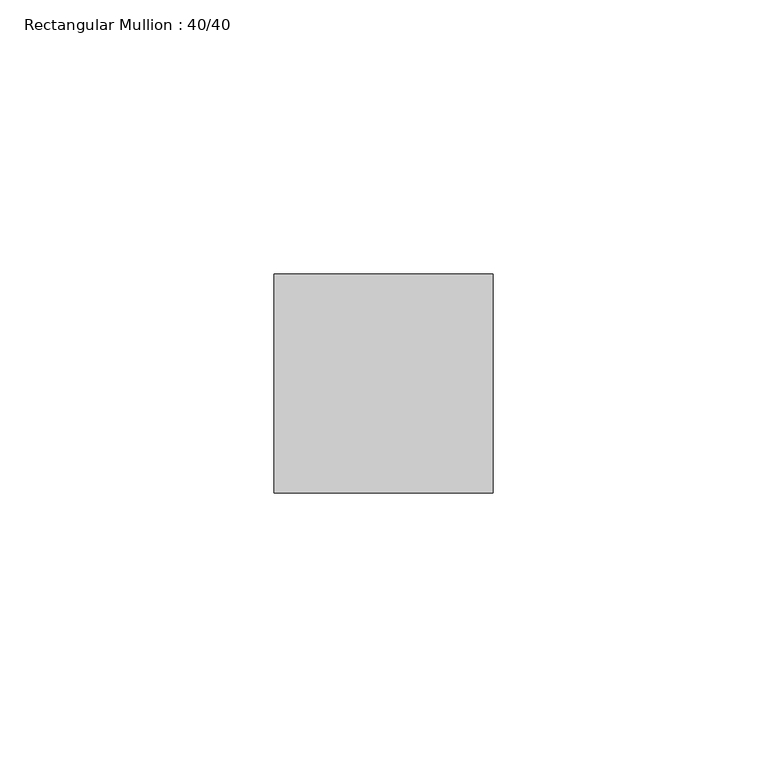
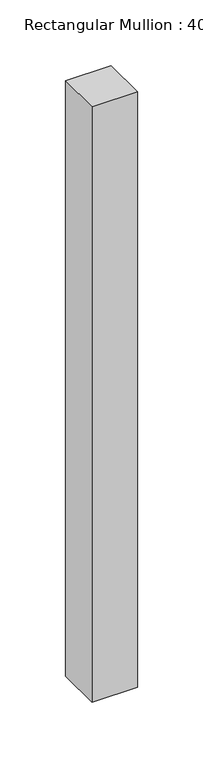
"""IFC4 building model written with IfcOpenShell, lengths in millimetres: member geometry, Rectangular Mullion : 40/40."""

from ifc_helpers import new_model, si_unit, frame, origin, place, context, project, spatial, polyline, outline, extrude, source, transform, mapped, element, save


def rectangular_mullion_40_40_b48b72c3(model_context):
    return source(origin(), model_context, "Body", "SweptSolid", [
        extrude(outline(polyline([(0.0, 20.0), (0.0, -20.0), (-40.0, -20.0), (-40.0, 20.0), (0.0, 20.0)])), frame((0.0, 0.0, -552.613098), z_axis=(0.0, 0.0, 1.0), x_axis=(1.0, 0.0, 0.0)), (0.0, 0.0, 1.0), 552.613098),
    ])


if __name__ == "__main__":
    model = new_model("IFC4")
    model_context = context("Model", 3, world=origin())
    ifc_project = project(units=[si_unit("LENGTHUNIT", "METRE", prefix="MILLI")], contexts=[model_context])
    site = spatial("IfcSite", under=ifc_project)
    building = spatial("IfcBuilding", under=site)
    placement = place(None, origin())
    rectangular_mullion_40_40_shape = rectangular_mullion_40_40_b48b72c3(model_context)
    element("IfcMember", 1, ObjectType="Rectangular Mullion : 40/40", at=placement, inside=building, context=model_context, shape_type="MappedRepresentation", body=[
        mapped(rectangular_mullion_40_40_shape, transform((0.0, 0.0, 0.0), x_axis=(1.0, 0.0, 0.0), y_axis=(0.0, 1.0, 0.0), z_axis=(0.0, 0.0, 1.0))),
    ])
    save(model, "model.ifc")
